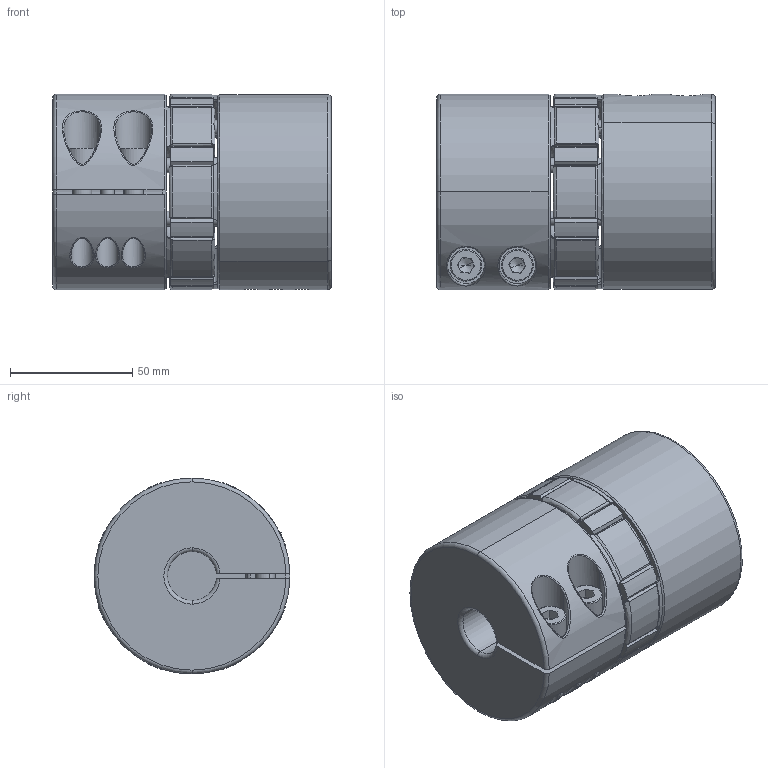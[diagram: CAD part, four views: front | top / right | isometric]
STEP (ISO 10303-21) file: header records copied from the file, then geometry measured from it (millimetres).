
FILE_DESCRIPTION (( 'STEP AP203' ), '1' );
FILE_NAME ('DXA-80X114-20-20.STEP', '2023-10-18T06:27:27', ( '' ), ( '' ), 'SwSTEP 2.0', 'SolidWorks 2020', '' );
FILE_SCHEMA (( 'CONFIG_CONTROL_DESIGN' ));
Length unit declared in the file: millimetre
Products named in the file (5): 80繩豪菜; DXA-80X114-20-20; 80X114夹紧型端部件成品图; socket set screw dog point_iso_ISO 4028 - M8 x 16-C; socket head cap screw_iso_M8 x 25 
Assembly tree (9 placements, depth 2):
  DXA-80X114-20-20
    80X114夹紧型端部件成品图  x2
    80繩豪菜
    socket head cap screw_iso_M8 x 25   x4
    socket set screw dog point_iso_ISO 4028 - M8 x 16-C  x2
Bounding box: 114 x 80 x 80 mm (x, y, z)
Volume: 510996.8 mm3; surface area: 88296.8 mm2
Topology: 9 solids, 9 shells, 643 faces, 1535 edges, 918 vertices
Faces by surface type: cylinder 225, plane 128, torus 124, bspline 100, cone 66
Entity records: 16090 total; most frequent: CARTESIAN_POINT 7908, DIRECTION 1605, ORIENTED_EDGE 1582, EDGE_CURVE 791, AXIS2_PLACEMENT_3D 704, VERTEX_POINT 487, CIRCLE 410, EDGE_LOOP 362
